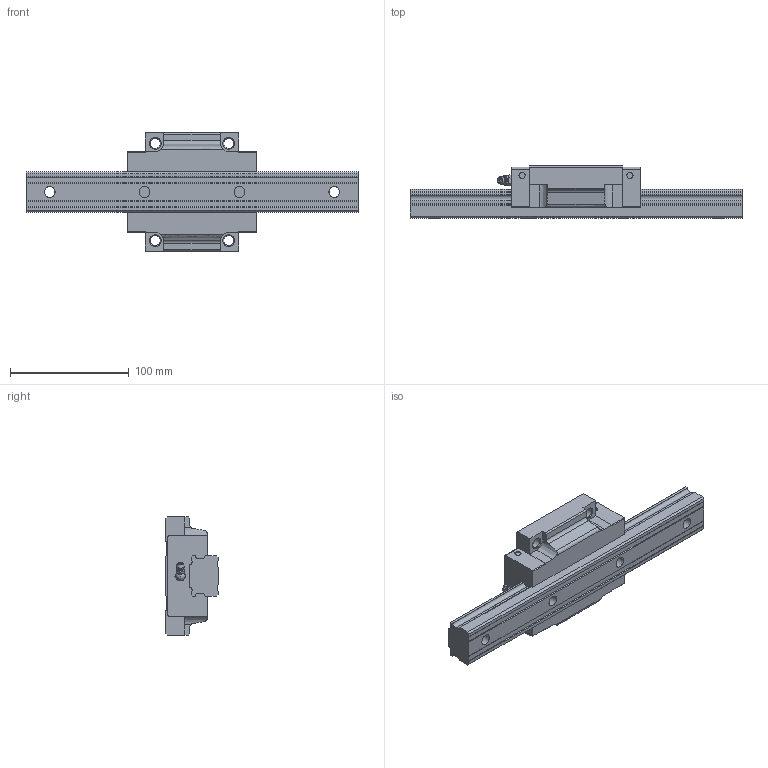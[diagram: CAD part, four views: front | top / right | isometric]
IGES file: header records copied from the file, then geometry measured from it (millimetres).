
Start section: Data from Parasolid IGES Translator 26.0.171, Copyright(c) 2006 Siemens PLM Software. All Rights Reserved.
Global section: file name: SVR35C1SS-280L_G20_0_B-M6F_85-25_0_0_0_1.igs; native system: By Siemens PLM Incorporated; preprocessor: XPlus GENERIC/IGES 26.0.171; author: Noname; organization: Noname; date: 20240517.072252; units: millimetre
Bounding box: 280 x 44 x 100 mm (x, y, z)
Surface area: 75745.6 mm2 (no closed solid volume)
Topology: 0 solids, 0 shells, 209 faces, 1134 edges, 1094 vertices
Faces by surface type: extrusion 116, revolution 93
